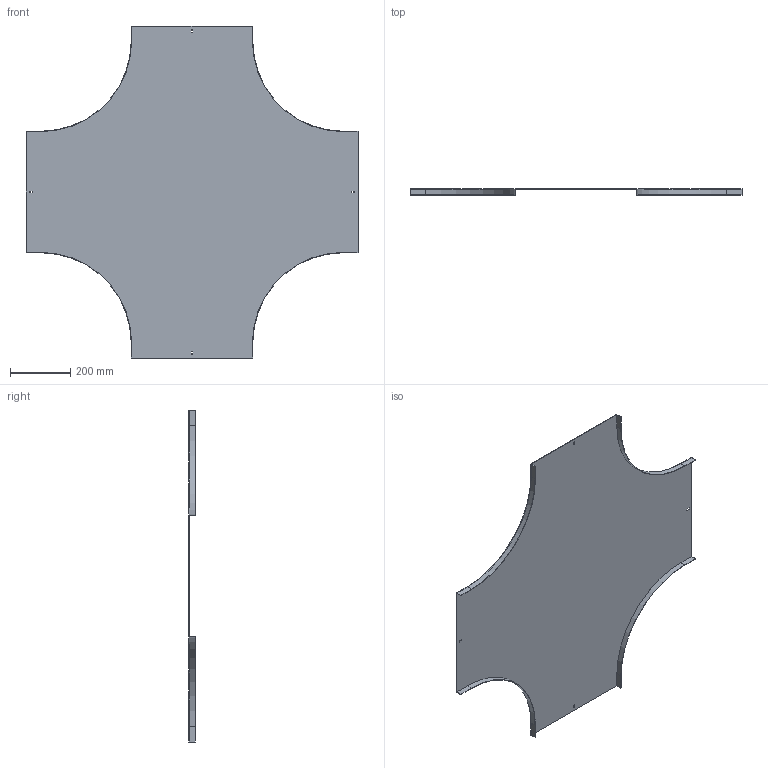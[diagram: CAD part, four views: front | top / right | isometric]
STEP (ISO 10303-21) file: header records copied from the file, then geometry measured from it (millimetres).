
FILE_DESCRIPTION (( 'STEP AP214' ), '1' );
FILE_NAME ('B2_17N3R400.step', '2025-02-21T12:08:46', ( '' ), ( '' ), 'SwSTEP 2.0', 'SolidWorks 2023', '' );
FILE_SCHEMA (( 'AUTOMOTIVE_DESIGN' ));
Length unit declared in the file: millimetre
Products named in the file (1): B2_17N3R400
Bounding box: 1100 x 20 x 1100 mm (x, y, z)
Volume: 1263941.3 mm3; surface area: 1691494.3 mm2
Topology: 1 solids, 1 shells, 50 faces, 144 edges, 96 vertices
Faces by surface type: plane 42, cylinder 8
Entity records: 1663 total; most frequent: CARTESIAN_POINT 291, ORIENTED_EDGE 288, DIRECTION 262, EDGE_CURVE 144, LINE 128, VECTOR 128, VERTEX_POINT 96, AXIS2_PLACEMENT_3D 67
